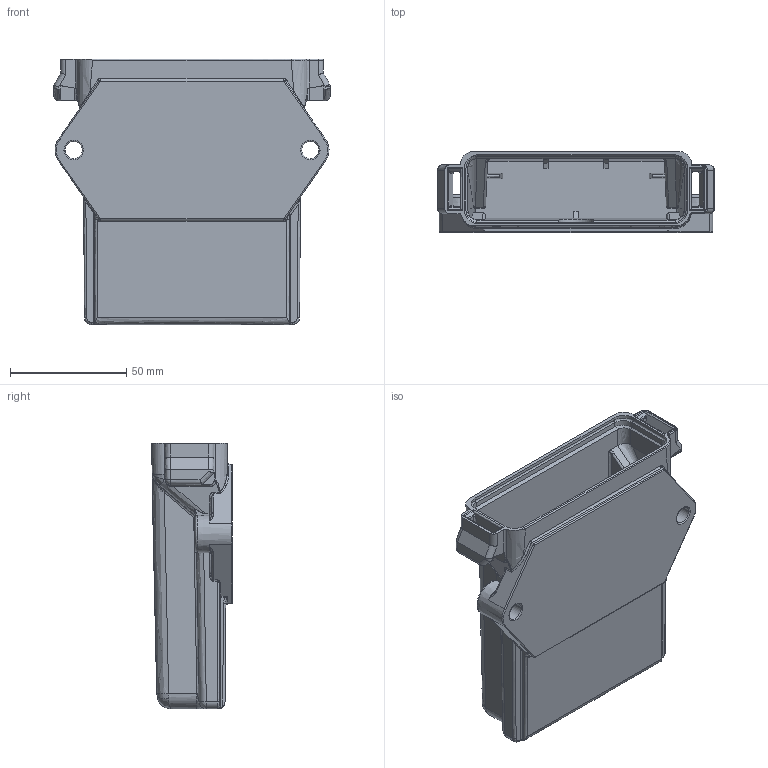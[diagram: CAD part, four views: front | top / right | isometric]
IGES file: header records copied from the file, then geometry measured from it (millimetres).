
Start section:  PTC IGES file: c-eec-325x4b-e016-99-3d.igs
Global section: file name: c-eec-325x4b-e016-99-3d.igs; native system: Pro/ENGINEER by Parametric Technology Corporation; preprocessor: 2011490; author: workeradm; organization: Unknown; units: millimetre
Bounding box: 118.75 x 34.75 x 114 mm (x, y, z)
Surface area: 63122.5 mm2 (no closed solid volume)
Topology: 0 solids, 0 shells, 426 faces, 2162 edges, 2162 vertices
Faces by surface type: bspline 227, revolution 199
